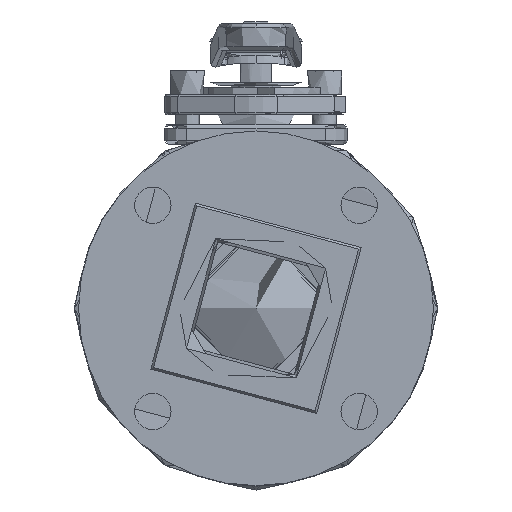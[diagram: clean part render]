
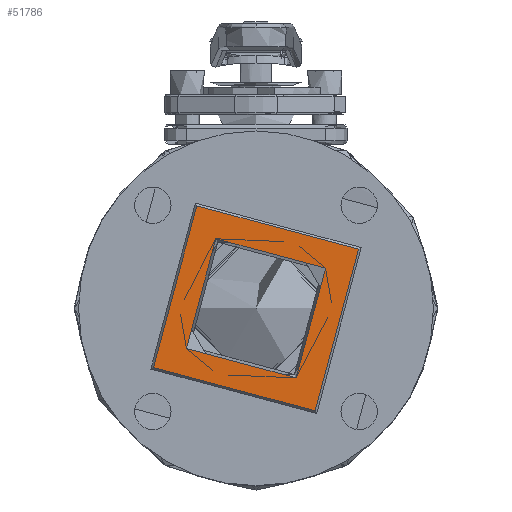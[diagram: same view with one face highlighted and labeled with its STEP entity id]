
A CAD part, left-side view. The second image highlights one B-rep face of the part: STEP entity #51786.
In plain terms, the highlighted planar face has unit normal (-1, 0, 0).
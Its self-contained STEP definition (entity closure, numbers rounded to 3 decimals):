
#51676 = CONICAL_SURFACE('',#51677,1.575,0.785);
#51677 = AXIS2_PLACEMENT_3D('',#51678,#51679,#51680);
#51678 = CARTESIAN_POINT('',(-0.073,1.87,
    3.239));
#51679 = DIRECTION('',(-1.,0.,0.));
#51680 = DIRECTION('',(0.,0.5,0.866));
#51738 = VERTEX_POINT('',#51739);
#51739 = CARTESIAN_POINT('',(-0.152,2.697,
    4.671));
#51759 = EDGE_CURVE('',#51738,#51738,#51760,.T.);
#51760 = SURFACE_CURVE('',#51761,(#51766,#51773),.PCURVE_S1.);
#51761 = CIRCLE('',#51762,1.654);
#51762 = AXIS2_PLACEMENT_3D('',#51763,#51764,#51765);
#51763 = CARTESIAN_POINT('',(-0.152,1.87,
    3.239));
#51764 = DIRECTION('',(-1.,0.,0.));
#51765 = DIRECTION('',(0.,0.5,0.866));
#51766 = PCURVE('',#51676,#51767);
#51767 = DEFINITIONAL_REPRESENTATION('',(#51768),#51772);
#51768 = LINE('',#51769,#51770);
#51769 = CARTESIAN_POINT('',(0.,0.079));
#51770 = VECTOR('',#51771,1.);
#51771 = DIRECTION('',(1.,0.));
#51772 = ( GEOMETRIC_REPRESENTATION_CONTEXT(2) 
PARAMETRIC_REPRESENTATION_CONTEXT() REPRESENTATION_CONTEXT('2D SPACE',''
  ) );
#51773 = PCURVE('',#51774,#51779);
#51774 = PLANE('',#51775);
#51775 = AXIS2_PLACEMENT_3D('',#51776,#51777,#51778);
#51776 = CARTESIAN_POINT('',(-0.152,0.967,
    6.608));
#51777 = DIRECTION('',(-1.,0.,0.));
#51778 = DIRECTION('',(0.,0.866,-0.5));
#51779 = DEFINITIONAL_REPRESENTATION('',(#51780),#51784);
#51780 = CIRCLE('',#51781,1.654);
#51781 = AXIS2_PLACEMENT_2D('',#51782,#51783);
#51782 = CARTESIAN_POINT('',(2.466,2.466));
#51783 = DIRECTION('',(0.,-1.));
#51784 = ( GEOMETRIC_REPRESENTATION_CONTEXT(2) 
PARAMETRIC_REPRESENTATION_CONTEXT() REPRESENTATION_CONTEXT('2D SPACE',''
  ) );
#51786 = ADVANCED_FACE('',(#51787,#51818),#51774,.T.);
#51787 = FACE_BOUND('',#51788,.T.);
#51788 = EDGE_LOOP('',(#51789));
#51789 = ORIENTED_EDGE('',*,*,#51790,.T.);
#51790 = EDGE_CURVE('',#51791,#51791,#51793,.T.);
#51791 = VERTEX_POINT('',#51792);
#51792 = CARTESIAN_POINT('',(-0.152,0.652,
    1.129));
#51793 = SURFACE_CURVE('',#51794,(#51799,#51806),.PCURVE_S1.);
#51794 = CIRCLE('',#51795,2.437);
#51795 = AXIS2_PLACEMENT_3D('',#51796,#51797,#51798);
#51796 = CARTESIAN_POINT('',(-0.152,1.87,
    3.239));
#51797 = DIRECTION('',(-1.,0.,0.));
#51798 = DIRECTION('',(0.,-0.5,-0.866));
#51799 = PCURVE('',#51774,#51800);
#51800 = DEFINITIONAL_REPRESENTATION('',(#51801),#51805);
#51801 = CIRCLE('',#51802,2.437);
#51802 = AXIS2_PLACEMENT_2D('',#51803,#51804);
#51803 = CARTESIAN_POINT('',(2.466,2.466));
#51804 = DIRECTION('',(0.,1.));
#51805 = ( GEOMETRIC_REPRESENTATION_CONTEXT(2) 
PARAMETRIC_REPRESENTATION_CONTEXT() REPRESENTATION_CONTEXT('2D SPACE',''
  ) );
#51806 = PCURVE('',#51807,#51812);
#51807 = CONICAL_SURFACE('',#51808,2.437,0.785);
#51808 = AXIS2_PLACEMENT_3D('',#51809,#51810,#51811);
#51809 = CARTESIAN_POINT('',(-0.152,1.87,
    3.239));
#51810 = DIRECTION('',(1.,0.,0.));
#51811 = DIRECTION('',(0.,-0.5,-0.866));
#51812 = DEFINITIONAL_REPRESENTATION('',(#51813),#51817);
#51813 = LINE('',#51814,#51815);
#51814 = CARTESIAN_POINT('',(6.283,0.));
#51815 = VECTOR('',#51816,1.);
#51816 = DIRECTION('',(-1.,0.));
#51817 = ( GEOMETRIC_REPRESENTATION_CONTEXT(2) 
PARAMETRIC_REPRESENTATION_CONTEXT() REPRESENTATION_CONTEXT('2D SPACE',''
  ) );
#51818 = FACE_BOUND('',#51819,.T.);
#51819 = EDGE_LOOP('',(#51820));
#51820 = ORIENTED_EDGE('',*,*,#51759,.F.);
